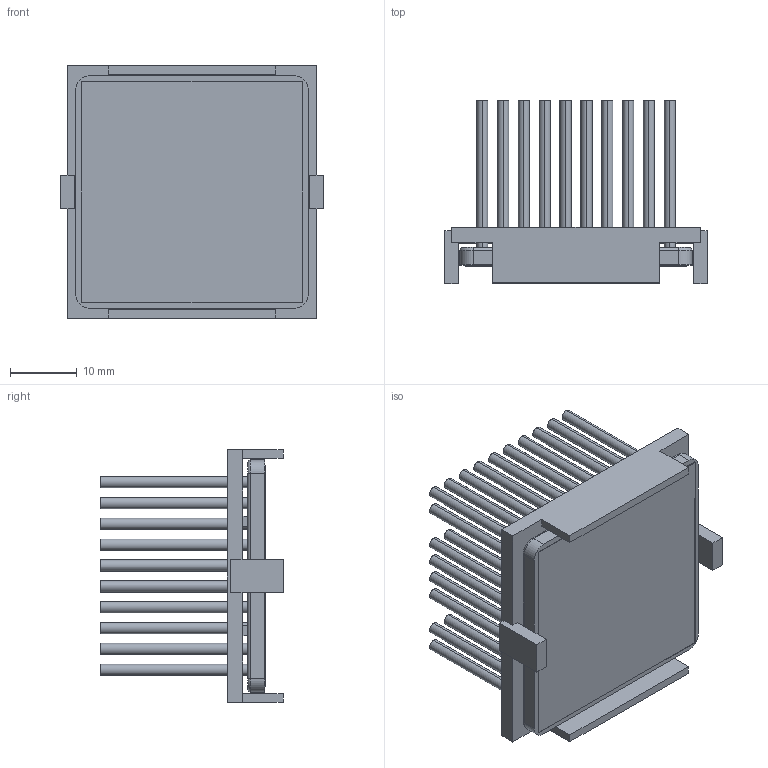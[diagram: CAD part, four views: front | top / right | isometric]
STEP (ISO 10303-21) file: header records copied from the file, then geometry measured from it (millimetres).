
FILE_DESCRIPTION (( 'STEP AP214' ), '1' );
FILE_NAME ('INM35002-25P-2.6K29.STEP', '2023-02-20T23:59:19', ( '' ), ( '' ), 'SwSTEP 2.0', 'SolidWorks 2020', '' );
FILE_SCHEMA (( 'AUTOMOTIVE_DESIGN' ));
Length unit declared in the file: inch
Products named in the file (1): INM35002-25P-2.6K29
Bounding box: 39.2 x 27.4 x 37.7 mm (x, y, z)
Volume: 9445.6 mm3; surface area: 18189.9 mm2
Topology: 3 solids, 3 shells, 354 faces, 760 edges, 504 vertices
Faces by surface type: cylinder 192, plane 158, torus 4
Entity records: 14416 total; most frequent: DIRECTION 1858, CARTESIAN_POINT 1619, ORIENTED_EDGE 1520, EDGE_CURVE 760, AXIS2_PLACEMENT_3D 743, VERTEX_POINT 504, EDGE_LOOP 448, CIRCLE 388
